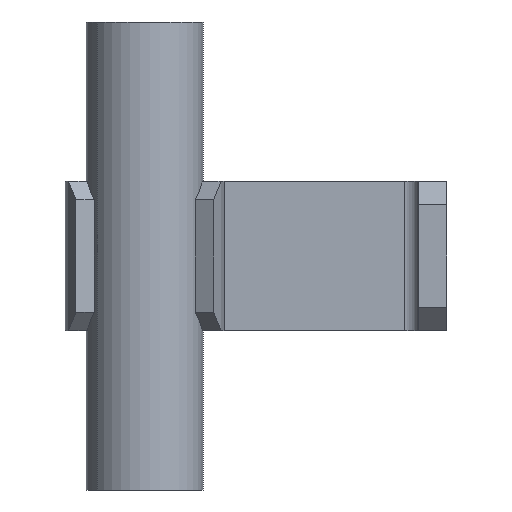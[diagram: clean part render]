
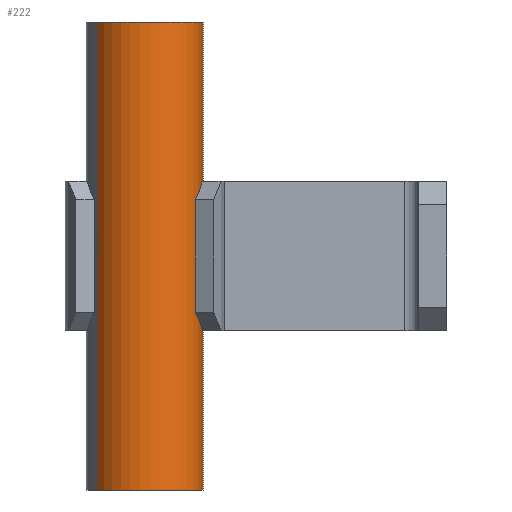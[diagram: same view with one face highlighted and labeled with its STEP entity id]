
A CAD part, left-side view. The second image highlights one B-rep face of the part: STEP entity #222.
In plain terms, the highlighted cylindrical face has radius 12.5 mm (diameter 25 mm), a partial arc.
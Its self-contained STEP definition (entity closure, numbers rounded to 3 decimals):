
#114 = CARTESIAN_POINT ( 'NONE',  ( -51.261, 74.675, -34. ) ) ;
#182 = AXIS2_PLACEMENT_3D ( 'NONE', #273, #489, #1349 ) ;
#200 = CARTESIAN_POINT ( 'NONE',  ( -36.739, 54.325, 66. ) ) ;
#222 = ADVANCED_FACE ( 'NONE', ( #962 ), #1002, .T. ) ;
#273 = CARTESIAN_POINT ( 'NONE',  ( -44., 64.5, 66. ) ) ;
#326 = DIRECTION ( 'NONE',  ( 0., 0., 1. ) ) ;
#331 = DIRECTION ( 'NONE',  ( 0., 0., 1. ) ) ;
#404 = VECTOR ( 'NONE', #505, 1000. ) ;
#415 = EDGE_CURVE ( 'NONE', #1422, #1708, #662, .T. ) ;
#489 = DIRECTION ( 'NONE',  ( 0., 0., 1. ) ) ;
#497 = EDGE_LOOP ( 'NONE', ( #1579, #1584, #1356, #800 ) ) ;
#505 = DIRECTION ( 'NONE',  ( 0., 0., 1. ) ) ;
#507 = CARTESIAN_POINT ( 'NONE',  ( -44., 64.5, -34. ) ) ;
#621 = CIRCLE ( 'NONE', #2129, 12.5 ) ;
#662 = CIRCLE ( 'NONE', #182, 12.5 ) ;
#727 = CARTESIAN_POINT ( 'NONE',  ( -51.261, 74.675, 66. ) ) ;
#800 = ORIENTED_EDGE ( 'NONE', *, *, #1933, .F. ) ;
#928 = EDGE_CURVE ( 'NONE', #1796, #1708, #2381, .T. ) ;
#962 = FACE_OUTER_BOUND ( 'NONE', #497, .T. ) ;
#1000 = LINE ( 'NONE', #1403, #404 ) ;
#1002 = CYLINDRICAL_SURFACE ( 'NONE', #2672, 12.5 ) ;
#1178 = EDGE_CURVE ( 'NONE', #2688, #1796, #621, .T. ) ;
#1349 = DIRECTION ( 'NONE',  ( -0.581, 0.814, 0. ) ) ;
#1356 = ORIENTED_EDGE ( 'NONE', *, *, #415, .F. ) ;
#1403 = CARTESIAN_POINT ( 'NONE',  ( -51.261, 74.675, -34. ) ) ;
#1422 = VERTEX_POINT ( 'NONE', #727 ) ;
#1579 = ORIENTED_EDGE ( 'NONE', *, *, #1178, .T. ) ;
#1584 = ORIENTED_EDGE ( 'NONE', *, *, #928, .T. ) ;
#1614 = CARTESIAN_POINT ( 'NONE',  ( -44., 64.5, -34. ) ) ;
#1708 = VERTEX_POINT ( 'NONE', #200 ) ;
#1796 = VERTEX_POINT ( 'NONE', #2125 ) ;
#1832 = DIRECTION ( 'NONE',  ( 0., 0., 1. ) ) ;
#1933 = EDGE_CURVE ( 'NONE', #2688, #1422, #1000, .T. ) ;
#2125 = CARTESIAN_POINT ( 'NONE',  ( -36.739, 54.325, -34. ) ) ;
#2129 = AXIS2_PLACEMENT_3D ( 'NONE', #1614, #1832, #2652 ) ;
#2377 = VECTOR ( 'NONE', #331, 1000. ) ;
#2381 = LINE ( 'NONE', #2607, #2377 ) ;
#2388 = DIRECTION ( 'NONE',  ( -0.581, 0.814, 0. ) ) ;
#2607 = CARTESIAN_POINT ( 'NONE',  ( -36.739, 54.325, -34. ) ) ;
#2652 = DIRECTION ( 'NONE',  ( -0.581, 0.814, 0. ) ) ;
#2672 = AXIS2_PLACEMENT_3D ( 'NONE', #507, #326, #2388 ) ;
#2688 = VERTEX_POINT ( 'NONE', #114 ) ;
